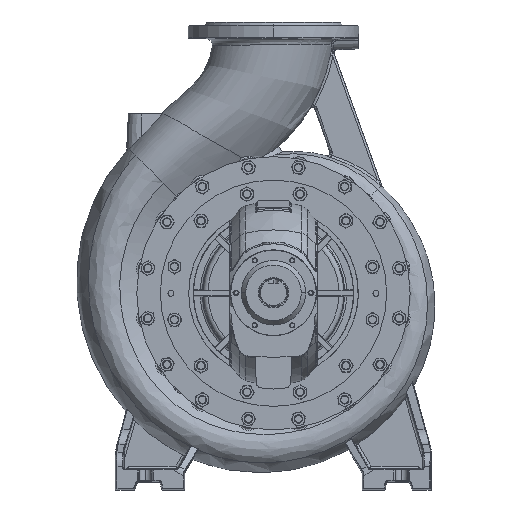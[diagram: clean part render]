
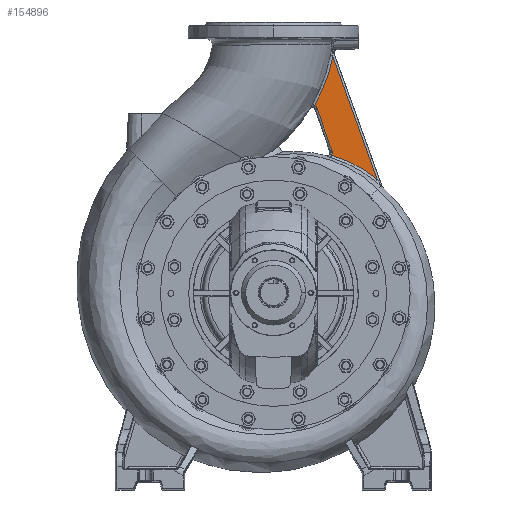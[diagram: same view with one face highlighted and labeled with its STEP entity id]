
A CAD part, top view. The second image highlights one B-rep face of the part: STEP entity #154896.
In plain terms, the highlighted planar face has unit normal (0, 0, 1).
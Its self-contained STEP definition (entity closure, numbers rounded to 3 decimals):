
#1380 = CARTESIAN_POINT ( 'NONE',  ( 160.13, 315.254, 10. ) ) ;
#6504 = DIRECTION ( 'NONE',  ( 0., 0., -1. ) ) ;
#9348 = VECTOR ( 'NONE', #67276, 1000. ) ;
#11400 = CARTESIAN_POINT ( 'NONE',  ( 106.166, 458.021, 10. ) ) ;
#17381 = VERTEX_POINT ( 'NONE', #237735 ) ;
#20746 = CARTESIAN_POINT ( 'NONE',  ( 174.286, 309.422, 10. ) ) ;
#22012 = EDGE_CURVE ( 'NONE', #71323, #17381, #208284, .T. ) ;
#22636 = CARTESIAN_POINT ( 'NONE',  ( 135.913, 323.658, 10. ) ) ;
#22769 = CARTESIAN_POINT ( 'NONE',  ( 122.01, 329.747, 10. ) ) ;
#26917 = CARTESIAN_POINT ( 'NONE',  ( 132.219, 573.944, 10. ) ) ;
#29139 = AXIS2_PLACEMENT_3D ( 'NONE', #76339, #59468, #194251 ) ;
#30809 = CARTESIAN_POINT ( 'NONE',  ( 96.439, 439.85, 10. ) ) ;
#35998 = EDGE_CURVE ( 'NONE', #144372, #203903, #225008, .T. ) ;
#36831 = ORIENTED_EDGE ( 'NONE', *, *, #187348, .T. ) ;
#38799 = AXIS2_PLACEMENT_3D ( 'NONE', #22769, #157542, #42175 ) ;
#40154 = CARTESIAN_POINT ( 'NONE',  ( 201.299, 295.506, 10. ) ) ;
#41536 = CARTESIAN_POINT ( 'NONE',  ( 242.89, 266.357, 10. ) ) ;
#42175 = DIRECTION ( 'NONE',  ( 1., 0., 0. ) ) ;
#47874 = CARTESIAN_POINT ( 'NONE',  ( 137.188, 329.747, 10. ) ) ;
#49309 = CARTESIAN_POINT ( 'NONE',  ( 134.547, 535.197, 10. ) ) ;
#50771 = FACE_OUTER_BOUND ( 'NONE', #171173, .T. ) ;
#52764 = CIRCLE ( 'NONE', #140229, 15.178 ) ;
#56649 = CARTESIAN_POINT ( 'NONE',  ( 136.34, 334.748, 10. ) ) ;
#59468 = DIRECTION ( 'NONE',  ( 0., 0., 1. ) ) ;
#59474 = CARTESIAN_POINT ( 'NONE',  ( 226.812, 278.984, 10. ) ) ;
#63116 = EDGE_CURVE ( 'NONE', #157028, #71323, #165602, .T. ) ;
#64090 = ORIENTED_EDGE ( 'NONE', *, *, #122161, .T. ) ;
#64236 = VERTEX_POINT ( 'NONE', #93765 ) ;
#67276 = DIRECTION ( 'NONE',  ( -0.339, 0.941, 0. ) ) ;
#67475 = CIRCLE ( 'NONE', #38799, 15.178 ) ;
#68644 = CARTESIAN_POINT ( 'NONE',  ( 128.896, 515.383, 10. ) ) ;
#71323 = VERTEX_POINT ( 'NONE', #41536 ) ;
#71565 = ORIENTED_EDGE ( 'NONE', *, *, #22012, .T. ) ;
#76339 = CARTESIAN_POINT ( 'NONE',  ( 122.01, 329.747, 10. ) ) ;
#77983 = CARTESIAN_POINT ( 'NONE',  ( 145.699, 320.575, 10. ) ) ;
#78832 = CARTESIAN_POINT ( 'NONE',  ( 242.89, 266.357, 10. ) ) ;
#87186 = CARTESIAN_POINT ( 'NONE',  ( 138.908, 555.353, 10. ) ) ;
#88027 = CARTESIAN_POINT ( 'NONE',  ( 125.698, 505.574, 10. ) ) ;
#93765 = CARTESIAN_POINT ( 'NONE',  ( 96.439, 439.85, 10. ) ) ;
#99345 = CARTESIAN_POINT ( 'NONE',  ( 102.308, 432.251, 10. ) ) ;
#104562 = CARTESIAN_POINT ( 'NONE',  ( 87.978, 427.249, 10. ) ) ;
#105617 = ORIENTED_EDGE ( 'NONE', *, *, #35998, .T. ) ;
#107380 = CARTESIAN_POINT ( 'NONE',  ( 123.148, 498.272, 10. ) ) ;
#113364 = ORIENTED_EDGE ( 'NONE', *, *, #190667, .T. ) ;
#116718 = CARTESIAN_POINT ( 'NONE',  ( 155.352, 317.095, 10. ) ) ;
#118964 = EDGE_CURVE ( 'NONE', #130438, #157028, #52764, .T. ) ;
#121852 = CARTESIAN_POINT ( 'NONE',  ( 122.01, 329.747, 10. ) ) ;
#122161 = EDGE_CURVE ( 'NONE', #203903, #130438, #67475, .T. ) ;
#122405 = VECTOR ( 'NONE', #172911, 1000. ) ;
#123973 = DIRECTION ( 'NONE',  ( 1., 0., 0. ) ) ;
#126776 = CARTESIAN_POINT ( 'NONE',  ( 114.772, 476.689, 10. ) ) ;
#130438 = VERTEX_POINT ( 'NONE', #47874 ) ;
#136144 = PLANE ( 'NONE',  #29139 ) ;
#136150 = CARTESIAN_POINT ( 'NONE',  ( 162.502, 314.305, 10. ) ) ;
#140210 = ORIENTED_EDGE ( 'NONE', *, *, #118964, .T. ) ;
#140229 = AXIS2_PLACEMENT_3D ( 'NONE', #121852, #6504, #141267 ) ;
#141267 = DIRECTION ( 'NONE',  ( 1., 0., 0. ) ) ;
#144372 = VERTEX_POINT ( 'NONE', #99345 ) ;
#145328 = CARTESIAN_POINT ( 'NONE',  ( 136.927, 545.223, 10. ) ) ;
#146136 = CARTESIAN_POINT ( 'NONE',  ( 101.491, 448.851, 10. ) ) ;
#153861 = CARTESIAN_POINT ( 'NONE',  ( 135.913, 323.658, 10. ) ) ;
#154896 = ADVANCED_FACE ( 'NONE', ( #50771 ), #136144, .T. ) ;
#155481 = CARTESIAN_POINT ( 'NONE',  ( 183.457, 305.072, 10. ) ) ;
#156900 = CARTESIAN_POINT ( 'NONE',  ( 136.34, 334.748, 10. ) ) ;
#157028 = VERTEX_POINT ( 'NONE', #22636 ) ;
#157542 = DIRECTION ( 'NONE',  ( 0., 0., -1. ) ) ;
#165602 = B_SPLINE_CURVE_WITH_KNOTS ( 'NONE', 3,
 ( #153861, #212797, #77983, #232243, #116718, #1380, #136150, #20746, #155481, #40154, #174922, #59474, #194258, #78832 ),
 .UNSPECIFIED., .F., .F.,
 ( 4, 2, 2, 2, 2, 2, 4 ),
 ( 0., 0.015, 0.023, 0.031, 0.062, 0.092, 0.123 ),
 .UNSPECIFIED. ) ;
#166859 = AXIS2_PLACEMENT_3D ( 'NONE', #104562, #239492, #123973 ) ;
#169225 = CIRCLE ( 'NONE', #166859, 15.178 ) ;
#171173 = EDGE_LOOP ( 'NONE', ( #64090, #140210, #231071, #71565, #36831, #113364, #105617 ) ) ;
#172911 = DIRECTION ( 'NONE',  ( 0.33, -0.944, 0. ) ) ;
#174922 = CARTESIAN_POINT ( 'NONE',  ( 209.971, 290.289, 10. ) ) ;
#183402 = B_SPLINE_CURVE_WITH_KNOTS ( 'NONE', 3,
 ( #87186, #145328, #49309, #184118, #68644, #203456, #88027, #222853, #107380, #242301, #126776, #11400, #146136, #30809 ),
 .UNSPECIFIED., .F., .F.,
 ( 4, 2, 2, 2, 2, 2, 4 ),
 ( 0., 0.031, 0.046, 0.054, 0.062, 0.093, 0.124 ),
 .UNSPECIFIED. ) ;
#184118 = CARTESIAN_POINT ( 'NONE',  ( 130.383, 520.317, 10. ) ) ;
#187348 = EDGE_CURVE ( 'NONE', #17381, #64236, #183402, .T. ) ;
#190667 = EDGE_CURVE ( 'NONE', #64236, #144372, #169225, .T. ) ;
#194251 = DIRECTION ( 'NONE',  ( 1., 0., 0. ) ) ;
#194258 = CARTESIAN_POINT ( 'NONE',  ( 234.981, 272.896, 10. ) ) ;
#203456 = CARTESIAN_POINT ( 'NONE',  ( 126.516, 508.022, 10. ) ) ;
#203903 = VERTEX_POINT ( 'NONE', #156900 ) ;
#208284 = LINE ( 'NONE', #26917, #9348 ) ;
#212797 = CARTESIAN_POINT ( 'NONE',  ( 140.826, 322.178, 10. ) ) ;
#222853 = CARTESIAN_POINT ( 'NONE',  ( 124.014, 500.699, 10. ) ) ;
#225008 = LINE ( 'NONE', #56649, #122405 ) ;
#231071 = ORIENTED_EDGE ( 'NONE', *, *, #63116, .T. ) ;
#232243 = CARTESIAN_POINT ( 'NONE',  ( 152.945, 317.989, 10. ) ) ;
#237735 = CARTESIAN_POINT ( 'NONE',  ( 138.908, 555.353, 10. ) ) ;
#239492 = DIRECTION ( 'NONE',  ( 0., 0., -1. ) ) ;
#242301 = CARTESIAN_POINT ( 'NONE',  ( 118.703, 486.189, 10. ) ) ;
